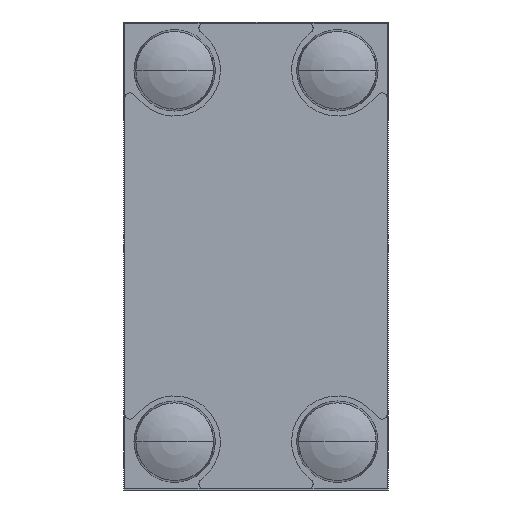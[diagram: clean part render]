
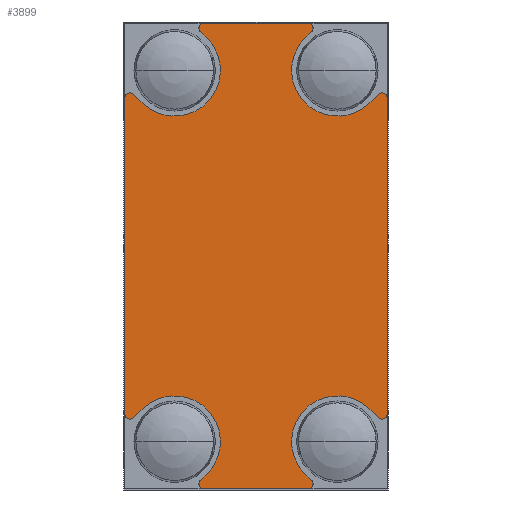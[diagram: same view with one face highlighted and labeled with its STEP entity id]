
A CAD part, front view. The second image highlights one B-rep face of the part: STEP entity #3899.
In plain terms, the highlighted planar face has unit normal (0, -1, 0).
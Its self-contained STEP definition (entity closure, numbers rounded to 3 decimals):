
#1266=DIRECTION('',(0.725,0.,-0.688));
#1267=VECTOR('',#1266,0.76);
#1268=CARTESIAN_POINT('',(4.902,-34.,-44.514));
#1269=LINE('2769',#1268,#1267);
#1270=CARTESIAN_POINT('',(5.109,-34.,-45.4));
#1271=DIRECTION('',(0.,-1.,0.));
#1272=DIRECTION('',(0.,0.,-1.));
#1273=AXIS2_PLACEMENT_3D('',#1270,#1271,#1272);
#1275=DIRECTION('',(1.,0.,0.));
#1276=VECTOR('',#1275,10.219);
#1277=CARTESIAN_POINT('',(-5.109,-34.,-45.9));
#1278=LINE('2805',#1277,#1276);
#1279=CARTESIAN_POINT('',(-5.109,-34.,-45.4));
#1280=DIRECTION('',(0.,-1.,0.));
#1281=DIRECTION('',(-0.688,0.,0.725));
#1282=AXIS2_PLACEMENT_3D('',#1279,#1280,#1281);
#1284=DIRECTION('',(0.725,0.,0.688));
#1285=VECTOR('',#1284,0.76);
#1286=CARTESIAN_POINT('',(-5.454,-34.,-45.037));
#1287=LINE('2783',#1286,#1285);
#1288=CARTESIAN_POINT('',(-8.,-34.,-41.25));
#1289=DIRECTION('',(0.,-1.,0.));
#1290=DIRECTION('',(0.688,0.,-0.725));
#1291=AXIS2_PLACEMENT_3D('',#1288,#1289,#1290);
#1293=DIRECTION('',(-0.725,0.,-0.688));
#1294=VECTOR('',#1293,1.321);
#1295=CARTESIAN_POINT('',(-11.098,-34.,-37.986));
#1296=LINE('2780',#1295,#1294);
#1297=CARTESIAN_POINT('',(-12.4,-34.,-38.532));
#1298=DIRECTION('',(0.,-1.,0.));
#1299=DIRECTION('',(-1.,0.,0.));
#1300=AXIS2_PLACEMENT_3D('',#1297,#1298,#1299);
#1302=DIRECTION('',(0.,0.,-1.));
#1303=VECTOR('',#1302,31.065);
#1304=CARTESIAN_POINT('',(-12.9,-34.,-7.468));
#1305=LINE('2808',#1304,#1303);
#1306=CARTESIAN_POINT('',(-12.4,-34.,-7.468));
#1307=DIRECTION('',(0.,-1.,0.));
#1308=DIRECTION('',(0.688,0.,0.725));
#1309=AXIS2_PLACEMENT_3D('',#1306,#1307,#1308);
#1311=DIRECTION('',(0.725,0.,-0.688));
#1312=VECTOR('',#1311,1.321);
#1313=CARTESIAN_POINT('',(-12.056,-34.,-7.105));
#1314=LINE('2787',#1313,#1312);
#1315=CARTESIAN_POINT('',(-8.,-34.,-4.75));
#1316=DIRECTION('',(0.,-1.,0.));
#1317=DIRECTION('',(-0.688,0.,-0.725));
#1318=AXIS2_PLACEMENT_3D('',#1315,#1316,#1317);
#1320=DIRECTION('',(-0.725,0.,0.688));
#1321=VECTOR('',#1320,0.76);
#1322=CARTESIAN_POINT('',(-4.902,-34.,-1.486));
#1323=LINE('2784',#1322,#1321);
#1324=CARTESIAN_POINT('',(-5.109,-34.,-0.6));
#1325=DIRECTION('',(0.,-1.,0.));
#1326=DIRECTION('',(0.,0.,1.));
#1327=AXIS2_PLACEMENT_3D('',#1324,#1325,#1326);
#1329=DIRECTION('',(-1.,0.,0.));
#1330=VECTOR('',#1329,10.219);
#1331=CARTESIAN_POINT('',(5.109,-34.,-0.1));
#1332=LINE('2807',#1331,#1330);
#1333=CARTESIAN_POINT('',(5.109,-34.,-0.6));
#1334=DIRECTION('',(0.,-1.,0.));
#1335=DIRECTION('',(0.688,0.,-0.725));
#1336=AXIS2_PLACEMENT_3D('',#1333,#1334,#1335);
#1338=DIRECTION('',(-0.725,0.,-0.688));
#1339=VECTOR('',#1338,0.76);
#1340=CARTESIAN_POINT('',(5.454,-34.,-0.963));
#1341=LINE('2778',#1340,#1339);
#1342=CARTESIAN_POINT('',(8.,-34.,-4.75));
#1343=DIRECTION('',(0.,-1.,0.));
#1344=DIRECTION('',(-0.688,0.,0.725));
#1345=AXIS2_PLACEMENT_3D('',#1342,#1343,#1344);
#1347=DIRECTION('',(0.725,0.,0.688));
#1348=VECTOR('',#1347,1.321);
#1349=CARTESIAN_POINT('',(11.098,-34.,-8.014));
#1350=LINE('2775',#1349,#1348);
#1351=CARTESIAN_POINT('',(12.4,-34.,-7.468));
#1352=DIRECTION('',(0.,-1.,0.));
#1353=DIRECTION('',(1.,0.,0.));
#1354=AXIS2_PLACEMENT_3D('',#1351,#1352,#1353);
#1356=DIRECTION('',(0.,0.,1.));
#1357=VECTOR('',#1356,31.065);
#1358=CARTESIAN_POINT('',(12.9,-34.,-38.532));
#1359=LINE('2806',#1358,#1357);
#1360=CARTESIAN_POINT('',(12.4,-34.,-38.532));
#1361=DIRECTION('',(0.,-1.,0.));
#1362=DIRECTION('',(-0.688,0.,-0.725));
#1363=AXIS2_PLACEMENT_3D('',#1360,#1361,#1362);
#1365=DIRECTION('',(-0.725,0.,0.688));
#1366=VECTOR('',#1365,1.321);
#1367=CARTESIAN_POINT('',(12.056,-34.,-38.895));
#1368=LINE('2772',#1367,#1366);
#1369=CARTESIAN_POINT('',(8.,-34.,-41.25));
#1370=DIRECTION('',(0.,-1.,0.));
#1371=DIRECTION('',(0.688,0.,0.725));
#1372=AXIS2_PLACEMENT_3D('',#1369,#1370,#1371);
#1826=CARTESIAN_POINT('',(4.902,-34.,-44.514));
#1827=CARTESIAN_POINT('',(5.454,-34.,-45.037));
#1828=VERTEX_POINT('',#1826);
#1829=VERTEX_POINT('',#1827);
#1830=CARTESIAN_POINT('',(5.109,-34.,-45.9));
#1831=VERTEX_POINT('',#1830);
#1832=CARTESIAN_POINT('',(12.056,-34.,-38.895));
#1833=CARTESIAN_POINT('',(12.9,-34.,-38.532));
#1834=VERTEX_POINT('',#1832);
#1835=VERTEX_POINT('',#1833);
#1836=CARTESIAN_POINT('',(11.098,-34.,-37.986));
#1837=VERTEX_POINT('',#1836);
#1838=CARTESIAN_POINT('',(4.902,-34.,-1.486));
#1839=CARTESIAN_POINT('',(11.098,-34.,-8.014));
#1840=VERTEX_POINT('',#1838);
#1841=VERTEX_POINT('',#1839);
#1842=CARTESIAN_POINT('',(12.056,-34.,-7.105));
#1843=VERTEX_POINT('',#1842);
#1844=CARTESIAN_POINT('',(12.9,-34.,-7.468));
#1845=VERTEX_POINT('',#1844);
#1846=CARTESIAN_POINT('',(5.454,-34.,-0.963));
#1847=CARTESIAN_POINT('',(5.109,-34.,-0.1));
#1848=VERTEX_POINT('',#1846);
#1849=VERTEX_POINT('',#1847);
#1850=CARTESIAN_POINT('',(-4.902,-34.,-44.514));
#1851=CARTESIAN_POINT('',(-11.098,-34.,-37.986));
#1852=VERTEX_POINT('',#1850);
#1853=VERTEX_POINT('',#1851);
#1854=CARTESIAN_POINT('',(-12.056,-34.,-38.895));
#1855=VERTEX_POINT('',#1854);
#1856=CARTESIAN_POINT('',(-12.9,-34.,-38.532));
#1857=VERTEX_POINT('',#1856);
#1858=CARTESIAN_POINT('',(-5.454,-34.,-45.037));
#1859=CARTESIAN_POINT('',(-5.109,-34.,-45.9));
#1860=VERTEX_POINT('',#1858);
#1861=VERTEX_POINT('',#1859);
#1862=CARTESIAN_POINT('',(-4.902,-34.,-1.486));
#1863=CARTESIAN_POINT('',(-5.454,-34.,-0.963));
#1864=VERTEX_POINT('',#1862);
#1865=VERTEX_POINT('',#1863);
#1866=CARTESIAN_POINT('',(-5.109,-34.,-0.1));
#1867=VERTEX_POINT('',#1866);
#1868=CARTESIAN_POINT('',(-12.056,-34.,-7.105));
#1869=CARTESIAN_POINT('',(-12.9,-34.,-7.468));
#1870=VERTEX_POINT('',#1868);
#1871=VERTEX_POINT('',#1869);
#1872=CARTESIAN_POINT('',(-11.098,-34.,-8.014));
#1873=VERTEX_POINT('',#1872);
#3847=CARTESIAN_POINT('',(0.,-34.,0.));
#3848=DIRECTION('',(0.,-1.,0.));
#3849=DIRECTION('',(1.,0.,0.));
#3850=AXIS2_PLACEMENT_3D('',#3847,#3848,#3849);
#3851=PLANE('2600',#3850);
#3853=ORIENTED_EDGE('2769',*,*,#3852,.T.);
#3855=ORIENTED_EDGE('2770',*,*,#3854,.F.);
#3856=ORIENTED_EDGE('2805',*,*,#3689,.F.);
#3858=ORIENTED_EDGE('2782',*,*,#3857,.F.);
#3860=ORIENTED_EDGE('2783',*,*,#3859,.T.);
#3862=ORIENTED_EDGE('2779',*,*,#3861,.T.);
#3864=ORIENTED_EDGE('2780',*,*,#3863,.T.);
#3866=ORIENTED_EDGE('2781',*,*,#3865,.F.);
#3867=ORIENTED_EDGE('2808',*,*,#3821,.F.);
#3868=ORIENTED_EDGE('2786',*,*,#3838,.F.);
#3870=ORIENTED_EDGE('2787',*,*,#3869,.T.);
#3872=ORIENTED_EDGE('2788',*,*,#3871,.T.);
#3874=ORIENTED_EDGE('2784',*,*,#3873,.T.);
#3876=ORIENTED_EDGE('2785',*,*,#3875,.F.);
#3878=ORIENTED_EDGE('2807',*,*,#3877,.F.);
#3880=ORIENTED_EDGE('2777',*,*,#3879,.F.);
#3882=ORIENTED_EDGE('2778',*,*,#3881,.T.);
#3884=ORIENTED_EDGE('2774',*,*,#3883,.T.);
#3886=ORIENTED_EDGE('2775',*,*,#3885,.T.);
#3888=ORIENTED_EDGE('2776',*,*,#3887,.F.);
#3890=ORIENTED_EDGE('2806',*,*,#3889,.F.);
#3892=ORIENTED_EDGE('2771',*,*,#3891,.F.);
#3894=ORIENTED_EDGE('2772',*,*,#3893,.T.);
#3896=ORIENTED_EDGE('2773',*,*,#3895,.T.);
#3897=EDGE_LOOP('2600',(#3853,#3855,#3856,#3858,#3860,#3862,#3864,#3866,#3867,
#3868,#3870,#3872,#3874,#3876,#3878,#3880,#3882,#3884,#3886,#3888,#3890,#3892,
#3894,#3896));
#3898=FACE_OUTER_BOUND('2600',#3897,.F.);
#3899=ADVANCED_FACE('2600',(#3898),#3851,.T.);
#1274=CIRCLE('2770',#1273,0.5);
#1283=CIRCLE('2782',#1282,0.5);
#1292=CIRCLE('2779',#1291,4.5);
#1301=CIRCLE('2781',#1300,0.5);
#1310=CIRCLE('2786',#1309,0.5);
#1319=CIRCLE('2788',#1318,4.5);
#1328=CIRCLE('2785',#1327,0.5);
#1337=CIRCLE('2777',#1336,0.5);
#1346=CIRCLE('2774',#1345,4.5);
#1355=CIRCLE('2776',#1354,0.5);
#1364=CIRCLE('2771',#1363,0.5);
#1373=CIRCLE('2773',#1372,4.5);
#3689=EDGE_CURVE('2805',#1861,#1831,#1278,.T.);
#3821=EDGE_CURVE('2808',#1871,#1857,#1305,.T.);
#3838=EDGE_CURVE('2786',#1870,#1871,#1310,.T.);
#3852=EDGE_CURVE('2769',#1828,#1829,#1269,.T.);
#3854=EDGE_CURVE('2770',#1831,#1829,#1274,.T.);
#3857=EDGE_CURVE('2782',#1860,#1861,#1283,.T.);
#3859=EDGE_CURVE('2783',#1860,#1852,#1287,.T.);
#3861=EDGE_CURVE('2779',#1852,#1853,#1292,.T.);
#3863=EDGE_CURVE('2780',#1853,#1855,#1296,.T.);
#3865=EDGE_CURVE('2781',#1857,#1855,#1301,.T.);
#3869=EDGE_CURVE('2787',#1870,#1873,#1314,.T.);
#3871=EDGE_CURVE('2788',#1873,#1864,#1319,.T.);
#3873=EDGE_CURVE('2784',#1864,#1865,#1323,.T.);
#3875=EDGE_CURVE('2785',#1867,#1865,#1328,.T.);
#3877=EDGE_CURVE('2807',#1849,#1867,#1332,.T.);
#3879=EDGE_CURVE('2777',#1848,#1849,#1337,.T.);
#3881=EDGE_CURVE('2778',#1848,#1840,#1341,.T.);
#3883=EDGE_CURVE('2774',#1840,#1841,#1346,.T.);
#3885=EDGE_CURVE('2775',#1841,#1843,#1350,.T.);
#3887=EDGE_CURVE('2776',#1845,#1843,#1355,.T.);
#3889=EDGE_CURVE('2806',#1835,#1845,#1359,.T.);
#3891=EDGE_CURVE('2771',#1834,#1835,#1364,.T.);
#3893=EDGE_CURVE('2772',#1834,#1837,#1368,.T.);
#3895=EDGE_CURVE('2773',#1837,#1828,#1373,.T.);
